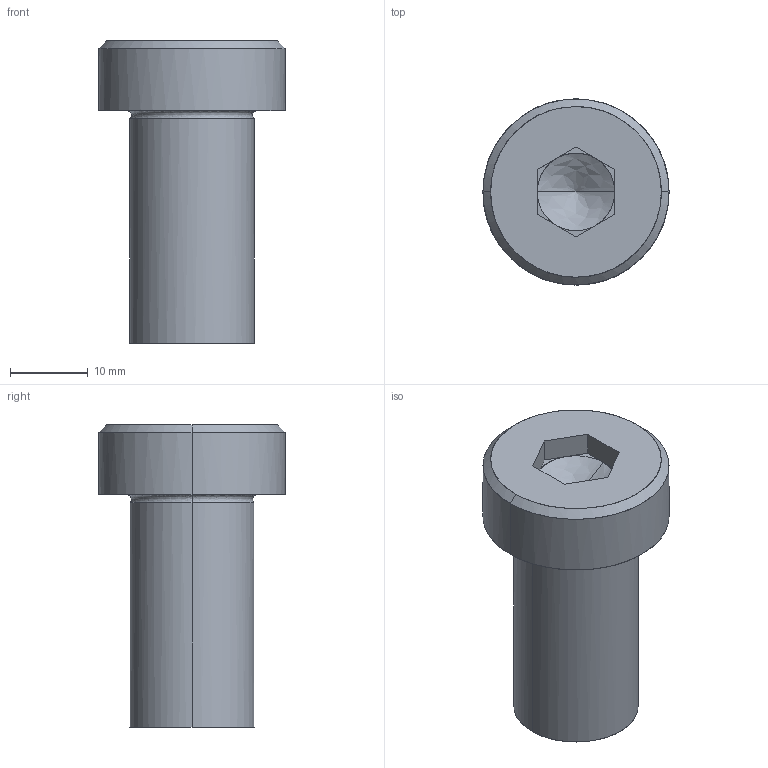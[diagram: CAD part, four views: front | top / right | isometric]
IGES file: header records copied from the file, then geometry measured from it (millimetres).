
Global section: file name: E:\UnigraphicsGraphicData\MISUMI_PRESS-PARTS\IGES\3d_sbtcn16-30_05154_r00.igs; native system: NX V5.0; preprocessor: UGS NX IGES V5.0; author: MISUMI; date: 20110105.162455; units: millimetre
Bounding box: 24 x 24 x 39 mm (x, y, z)
Surface area: 3854.5 mm2 (no closed solid volume)
Topology: 0 solids, 0 shells, 34 faces, 186 edges, 182 vertices
Faces by surface type: bspline 34
